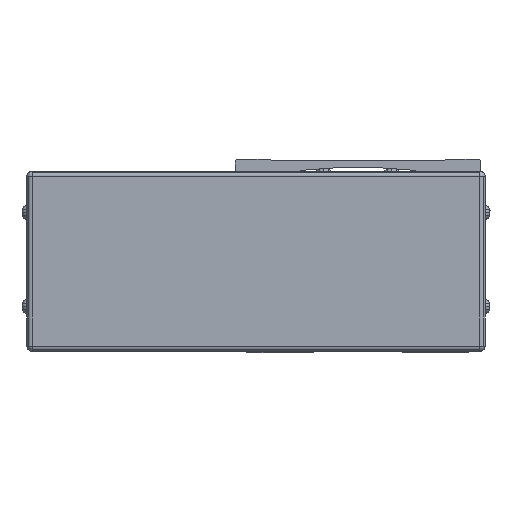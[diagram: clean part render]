
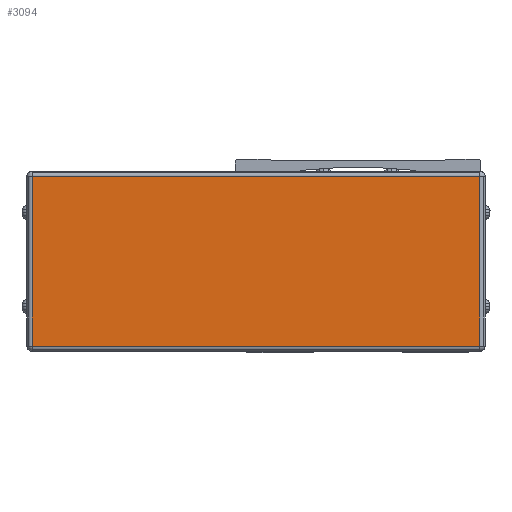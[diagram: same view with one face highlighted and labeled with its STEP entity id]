
A CAD part, front view. The second image highlights one B-rep face of the part: STEP entity #3094.
In plain terms, the highlighted planar face has unit normal (0, -1, 0).
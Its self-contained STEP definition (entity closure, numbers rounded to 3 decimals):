
#3094=ADVANCED_FACE('',(#8231),#8232,.F.);
#8231=FACE_OUTER_BOUND('',#15987,.T.);
#8232=PLANE('',#15988);
#15987=EDGE_LOOP('',(#25823,#25824,#25825,#25826));
#15988=AXIS2_PLACEMENT_3D('',#25827,#25828,#25829);
#25823=ORIENTED_EDGE('',*,*,#47221,.T.);
#25824=ORIENTED_EDGE('',*,*,#47222,.T.);
#25825=ORIENTED_EDGE('',*,*,#47223,.T.);
#25826=ORIENTED_EDGE('',*,*,#46801,.T.);
#25827=CARTESIAN_POINT('',(-39.,-113.778,-42.5));
#25828=DIRECTION('',(0.0,1.0,-0.0));
#25829=DIRECTION('',(-1.0,0.0,0.0));
#46801=EDGE_CURVE('',#55877,#55875,#55878,.T.);
#47221=EDGE_CURVE('',#55875,#56631,#56632,.T.);
#47222=EDGE_CURVE('',#56631,#56633,#56634,.T.);
#47223=EDGE_CURVE('',#56633,#55877,#56635,.T.);
#55875=VERTEX_POINT('',#68941);
#55877=VERTEX_POINT('',#68943);
#55878=LINE('',#68944,#68945);
#56631=VERTEX_POINT('',#70271);
#56632=LINE('',#70272,#70273);
#56633=VERTEX_POINT('',#70274);
#56634=LINE('',#70275,#70276);
#56635=LINE('',#70277,#70278);
#68941=CARTESIAN_POINT('',(-124.7,-113.778,-40.5));
#68943=CARTESIAN_POINT('',(-124.7,-113.778,24.5));
#68944=CARTESIAN_POINT('',(-124.7,-113.778,-42.5));
#68945=VECTOR('',#87017,10.0);
#70271=CARTESIAN_POINT('',(46.7,-113.778,-40.5));
#70272=CARTESIAN_POINT('',(-39.,-113.778,-40.5));
#70273=VECTOR('',#87538,10.0);
#70274=CARTESIAN_POINT('',(46.7,-113.778,24.5));
#70275=CARTESIAN_POINT('',(46.7,-113.778,-42.5));
#70276=VECTOR('',#87539,10.0);
#70277=CARTESIAN_POINT('',(-39.,-113.778,24.5));
#70278=VECTOR('',#87540,10.0);
#87017=DIRECTION('',(-0.0,0.0,-1.0));
#87538=DIRECTION('',(1.0,0.0,0.0));
#87539=DIRECTION('',(0.0,0.0,1.0));
#87540=DIRECTION('',(-1.0,0.0,0.0));
